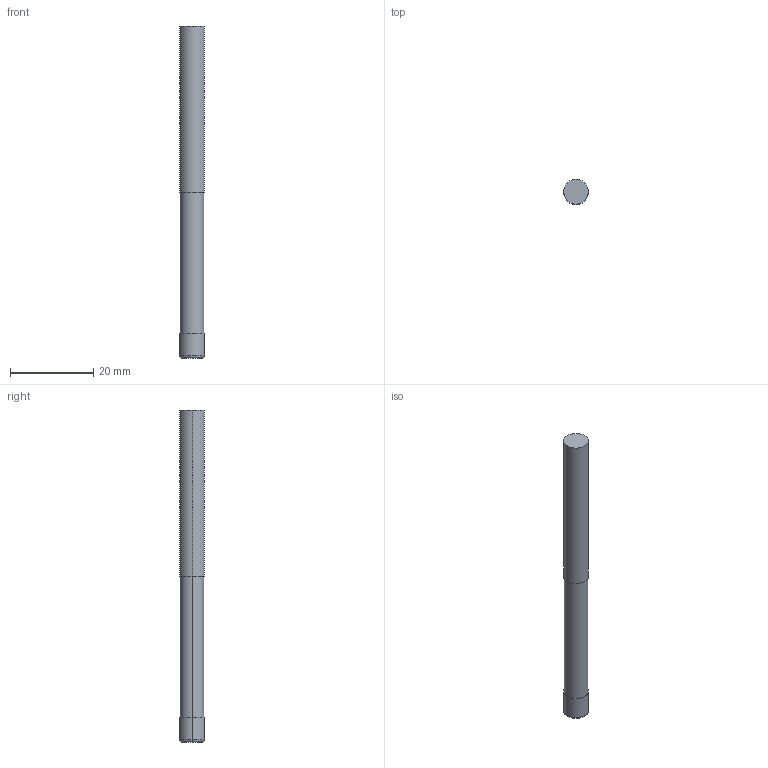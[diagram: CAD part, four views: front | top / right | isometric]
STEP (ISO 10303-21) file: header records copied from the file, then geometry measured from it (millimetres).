
FILE_DESCRIPTION(('STEP AP214'),'1');
FILE_NAME('cctmp_F733E54C-BFB3-4004-8CB8-34F4591D330B_2020_10_01_07_18_02_0983..stp','2020-10-01T05:18:03',('Meusburger Georg GmbH & Co KG'),('CADClick - www.CADClick.com'),'Spatial InterOp 3D',' ','unknown authorization');
FILE_SCHEMA(('AUTOMOTIVE_DESIGN { 1 0 10303 214 1 1 1 1 }'));
Length unit declared in the file: millimetre
Products named in the file (1): WZF17428_6_0.5
Bounding box: 6 x 6 x 80 mm (x, y, z)
Volume: 2167.2 mm3; surface area: 1533.8 mm2
Topology: 1 solids, 1 shells, 12 faces, 22 edges, 14 vertices
Faces by surface type: cylinder 6, plane 4, torus 2
Entity records: 426 total; most frequent: DIRECTION 64, CARTESIAN_POINT 49, ORIENTED_EDGE 44, AXIS2_PLACEMENT_3D 29, EDGE_CURVE 22, CIRCLE 16, EDGE_LOOP 14, VERTEX_POINT 14
